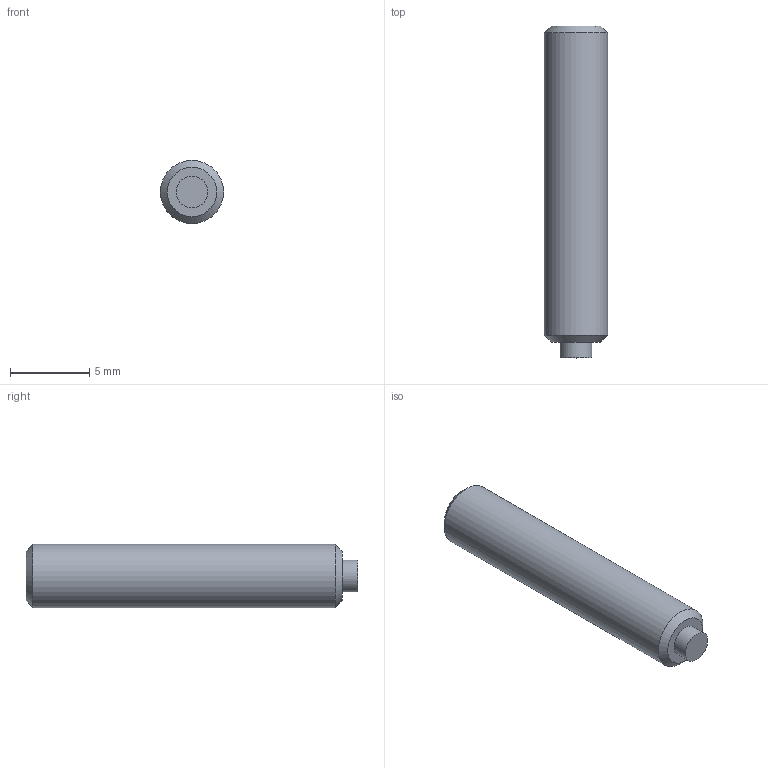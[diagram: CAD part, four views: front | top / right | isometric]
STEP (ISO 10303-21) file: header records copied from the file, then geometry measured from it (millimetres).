
FILE_DESCRIPTION( ( 'STEP AP203' ), '1' );
FILE_NAME( 'C:/Temp/Ganter_Step_05_03_2020/data/3_2/gn913_3/Grub screw GN 913.3-M4-20-KU.stp', '2020-03-13T05:35:34', ( 'License CC BY-ND 4.0' ), ( 'CADENAS' ), ' ', 'PARTsolutions', ' ' );
FILE_SCHEMA( ( 'CONFIG_CONTROL_DESIGN' ) );
Length unit declared in the file: millimetre
Products named in the file (1): _Grub screw GN 913.3-M4-20-KU
Bounding box: 4 x 21 x 4 mm (x, y, z)
Volume: 247.4 mm3; surface area: 288.9 mm2
Topology: 1 solids, 1 shells, 14 faces, 28 edges, 18 vertices
Faces by surface type: plane 10, cylinder 2, cone 2
Full cylindrical faces by diameter (mm): 2 x1, 4 x1
Entity records: 386 total; most frequent: DIRECTION 60, CARTESIAN_POINT 57, ORIENTED_EDGE 48, EDGE_CURVE 24, AXIS2_PLACEMENT_3D 21, EDGE_LOOP 20, VERTEX_POINT 18, LINE 18
